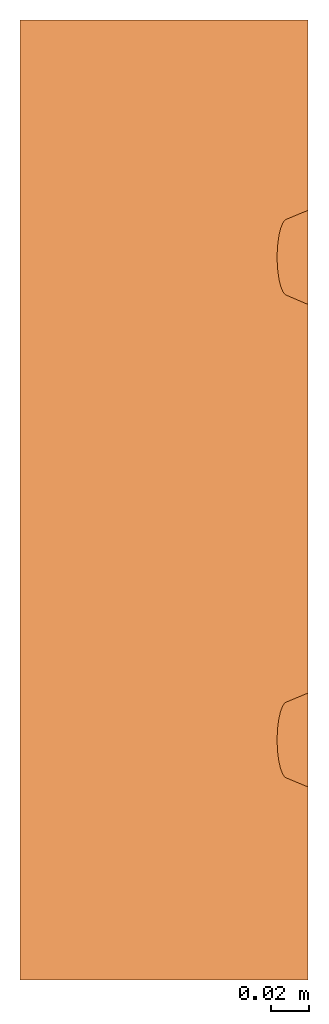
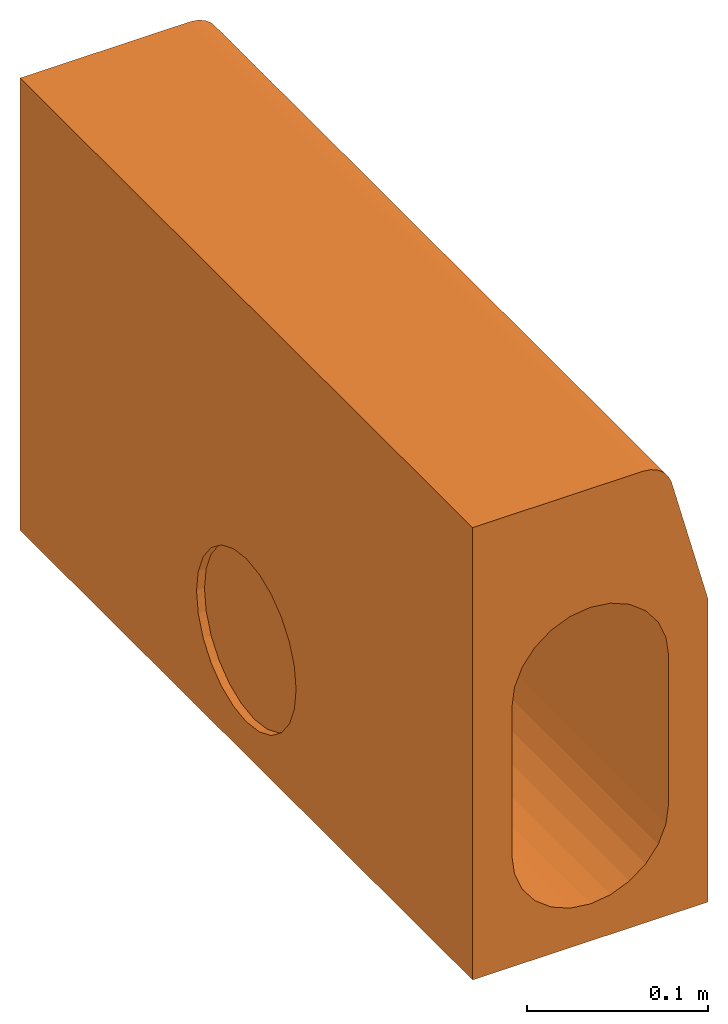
# One storey: 1 proxy.
"""IFC2X3 building model written with IfcOpenShell, lengths in millimetres."""

import ifcopenshell
import ifcopenshell.guid

model = None  # the IFC model being written
_history = None  # IfcOwnerHistory: only IFC2X3 demands one
_inside = {}  # id of a spatial element -> (the spatial element, [elements in it])
_under = {}  # id of a project, library or spatial element -> (it, [spatial elements below it])
_declared = {}  # id of a project -> (the project, [libraries it declares])
_typed = {}  # id of a type object -> (the type object, [elements of that type])
_made_of = {}  # id of a material, layer set ... -> (it, [elements and type objects made of it])


def new_model(schema):
    """Start an empty IFC model of exactly this schema.

    Asked for "IFC4X3", IfcOpenShell would pick the latest addendum, in which some entities
    have other attributes; the version numbers below select the first issue.
    IFC2X3 requires an IfcOwnerHistory on every rooted entity: one is made here for all.
    """
    global model, _history
    if schema == "IFC4X3":
        model = ifcopenshell.file(schema_version=(4, 3, 0, 0))
    else:
        model = ifcopenshell.file(schema=schema)
    _inside.clear()
    _under.clear()
    _declared.clear()
    _typed.clear()
    _made_of.clear()
    _history = None
    if model.schema == "IFC2X3":
        org = make("IfcOrganization", Name="unknown")
        user = make(
            "IfcPersonAndOrganization",
            ThePerson=make("IfcPerson", FamilyName="unknown"),
            TheOrganization=org,
        )
        app = make(
            "IfcApplication",
            ApplicationDeveloper=org,
            Version="unknown",
            ApplicationFullName="unknown",
            ApplicationIdentifier="unknown",
        )
        _history = make(
            "IfcOwnerHistory",
            OwningUser=user,
            OwningApplication=app,
            ChangeAction="ADDED",
            CreationDate=0,
        )
    return model


def make(cls, **values):
    """One entity of the class cls with the attributes given. An attribute that is None is left unset."""
    return model.create_entity(
        cls, **{name: value for name, value in values.items() if value is not None}
    )


def entity(cls, *values):
    """Any entity or typed value of the class cls, its attributes in the order of the schema. None: left unset."""
    e = model.create_entity(cls)
    for i, value in enumerate(values):
        if value is not None:
            e[i] = value
    return e


def rooted(cls, **values):
    """An entity with a GlobalId (a new one), such as an element, a storey or a relation."""
    return make(cls, GlobalId=ifcopenshell.guid.new(), OwnerHistory=_history, **values)


def si_unit(unit_type, name, prefix=None):
    """IfcSIUnit, for example si_unit("LENGTHUNIT", "METRE", prefix="MILLI")."""
    return make("IfcSIUnit", UnitType=unit_type, Prefix=prefix, Name=name)


def converted_unit(unit_type, name, factor, base, dimensions=None, offset=None):
    """IfcConversionBasedUnit, such as the inch: factor (a typed value) times the base unit."""
    return make(
        "IfcConversionBasedUnit"
        if offset is None
        else "IfcConversionBasedUnitWithOffset",
        ConversionOffset=offset,
        Dimensions=None
        if dimensions is None
        else entity("IfcDimensionalExponents", *dimensions),
        UnitType=unit_type,
        Name=name,
        ConversionFactor=make(
            "IfcMeasureWithUnit", ValueComponent=factor, UnitComponent=base
        ),
    )


def assignment(units):
    """IfcUnitAssignment: the units of a project."""
    return None if units is None else make("IfcUnitAssignment", Units=units)


def point(xyz):
    """IfcCartesianPoint."""
    return None if xyz is None else make("IfcCartesianPoint", Coordinates=xyz)


def direction(xyz):
    """IfcDirection."""
    return None if xyz is None else make("IfcDirection", DirectionRatios=xyz)


def frame(location, z_axis=None, x_axis=None):
    """IfcAxis2Placement3D, a coordinate frame: its origin and axes. An axis left out is left unset."""
    return make(
        "IfcAxis2Placement3D",
        Location=point(location),
        Axis=direction(z_axis),
        RefDirection=direction(x_axis),
    )


def origin():
    """The frame at (0, 0, 0) with its axes left unset."""
    return frame((0.0, 0.0, 0.0))


def place(relative_to, where):
    """IfcLocalPlacement: puts the frame where relative to a parent placement (None: the world)."""
    return make(
        "IfcLocalPlacement", PlacementRelTo=relative_to, RelativePlacement=where
    )


def context(
    kind, dimensions, precision=None, world=None, true_north=None, identifier=None
):
    """IfcGeometricRepresentationContext, for example the 3D "Model" context."""
    return make(
        "IfcGeometricRepresentationContext",
        ContextIdentifier=identifier,
        ContextType=kind,
        CoordinateSpaceDimension=dimensions,
        Precision=precision,
        WorldCoordinateSystem=world,
        TrueNorth=true_north,
    )


def subcontext(parent, identifier, kind, view, scale=None):
    """IfcGeometricRepresentationSubContext, for example "Body" below "Model"."""
    return make(
        "IfcGeometricRepresentationSubContext",
        ContextIdentifier=identifier,
        ContextType=kind,
        ParentContext=parent,
        TargetScale=scale,
        TargetView=view,
    )


def project(units=None, contexts=None):
    """IfcProject with its units and contexts."""
    return rooted(
        "IfcProject",
        Name="project",
        RepresentationContexts=contexts,
        UnitsInContext=assignment(units),
    )


def spatial(cls, under=None, at=None, **own):
    """A site, building, storey or space (cls), placed at a placement, below another one or the project."""
    s = rooted(cls, ObjectPlacement=at, **own)
    if under is not None:
        _under.setdefault(under.id(), (under, []))[1].append(s)
    return s


def faces_of(points, faces, orient=None, outer=None):
    """IfcFace entities. A face is a list of loops; a loop is a list of indices into points, from 0.

    orient and outer hold one flag for each loop. By default every Orientation is true, the
    first loop of a face is its IfcFaceOuterBound and the others are IfcFaceBound.
    """
    made = []
    for i, loops in enumerate(faces):
        bounds = []
        for j, loop in enumerate(loops):
            is_outer = j == 0 if outer is None else outer[i][j]
            bounds.append(
                make(
                    "IfcFaceOuterBound" if is_outer else "IfcFaceBound",
                    Bound=make("IfcPolyLoop", Polygon=[points[k] for k in loop]),
                    Orientation=True if orient is None else orient[i][j],
                )
            )
        made.append(make("IfcFace", Bounds=bounds))
    return made


def faceted_brep(points, faces, orient=None, outer=None, voids=None):
    """IfcFacetedBrep: a solid bounded by flat faces; with voids (closed shells), ...WithVoids."""
    shared = [point(p) for p in points]
    hull = make("IfcClosedShell", CfsFaces=faces_of(shared, faces, orient, outer))
    if voids is None:
        return make("IfcFacetedBrep", Outer=hull)
    return make(
        "IfcFacetedBrepWithVoids",
        Outer=hull,
        Voids=[
            make(cls, CfsFaces=faces_of(shared, fs, o, b)) for cls, fs, o, b in voids
        ],
    )


def shape(context_of_items, identifier, shape_type, items):
    """IfcShapeRepresentation: the items that make up one representation, for example the "Body"."""
    return make(
        "IfcShapeRepresentation",
        ContextOfItems=context_of_items,
        RepresentationIdentifier=identifier,
        RepresentationType=shape_type,
        Items=items,
    )


def source(mapping_origin, context_of_items, identifier, shape_type, items):
    """IfcRepresentationMap: a shape defined once, which mapped items show again and again."""
    return make(
        "IfcRepresentationMap",
        MappingOrigin=mapping_origin,
        MappedRepresentation=shape(context_of_items, identifier, shape_type, items),
    )


def transform(
    local_origin,
    x_axis=None,
    y_axis=None,
    z_axis=None,
    scale=None,
    scale2=None,
    scale3=None,
    uniform=True,
):
    """IfcCartesianTransformationOperator3D, or its non-uniform kind. x_axis, y_axis, z_axis: its Axis1, 2, 3."""
    if uniform:
        return make(
            "IfcCartesianTransformationOperator3D",
            Axis1=direction(x_axis),
            Axis2=direction(y_axis),
            LocalOrigin=point(local_origin),
            Scale=scale,
            Axis3=direction(z_axis),
        )
    return make(
        "IfcCartesianTransformationOperator3DnonUniform",
        Axis1=direction(x_axis),
        Axis2=direction(y_axis),
        LocalOrigin=point(local_origin),
        Scale=scale,
        Axis3=direction(z_axis),
        Scale2=scale2,
        Scale3=scale3,
    )


def mapped(mapping_source, mapping_target):
    """IfcMappedItem: shows the shape of a source again, moved by a transform."""
    return make(
        "IfcMappedItem", MappingSource=mapping_source, MappingTarget=mapping_target
    )


def material(Name=None, Category=None):
    """IfcMaterial."""
    return make("IfcMaterial", Name=Name, Category=Category)


def made_of(thing, what):
    """Note that an element or type object is made of a material, layer set ...; save() writes the relation."""
    if what is not None:
        _made_of.setdefault(what.id(), (what, []))[1].append(thing)
    return thing


def element(
    cls,
    number,
    at=None,
    inside=None,
    cuts=None,
    type_object=None,
    material=None,
    context=None,
    identifier="Body",
    shape_type=None,
    held_by="IfcProductDefinitionShape",
    body=None,
    shapes=None,
    **own,
):
    """One element of the class cls, such as IfcWall. Its Tag is "e" and its number.

    at: its placement. inside: the storey or other place that contains it. cuts: it is an
    opening in that element (IfcRelVoidsElement). A single representation is given by context,
    identifier, shape_type and body (its items); several are given by shapes. held_by: the class
    of the entity that holds the representations. save() writes the other relations.
    """
    e = rooted(cls, Tag="e%d" % number, ObjectPlacement=at, **own)
    if body is not None:
        shapes = [shape(context, identifier, shape_type, body)]
    if shapes is not None:
        e.Representation = make(held_by, Representations=shapes)
    if inside is not None:
        _inside.setdefault(inside.id(), (inside, []))[1].append(e)
    if cuts is not None:
        rooted(
            "IfcRelVoidsElement", RelatingBuildingElement=cuts, RelatedOpeningElement=e
        )
    if type_object is not None:
        _typed.setdefault(type_object.id(), (type_object, []))[1].append(e)
    return made_of(e, material)


def aggregate(whole, parts):
    """IfcRelAggregates: a whole, such as a stair, and the parts it consists of."""
    return rooted("IfcRelAggregates", RelatingObject=whole, RelatedObjects=parts)


def save(model, path):
    """Write the relations noted so far, then the file.

    IfcRelAggregates (storeys below a building ...), IfcRelContainedInSpatialStructure (elements
    in a storey), IfcRelDefinesByType, IfcRelAssociatesMaterial and IfcRelDeclares: one each for
    every whole, place, type object, material and project.
    """
    for whole, parts in _under.values():
        aggregate(whole, parts)
    for where, things in _inside.values():
        rooted(
            "IfcRelContainedInSpatialStructure",
            RelatedElements=things,
            RelatingStructure=where,
        )
    for kind, things in _typed.values():
        rooted("IfcRelDefinesByType", RelatedObjects=things, RelatingType=kind)
    for what, things in _made_of.values():
        rooted("IfcRelAssociatesMaterial", RelatedObjects=things, RelatingMaterial=what)
    for by, libraries in _declared.values():
        rooted("IfcRelDeclares", RelatingContext=by, RelatedDefinitions=libraries)
    model.write(path)


model = new_model("IFC2X3")

# Units and contexts
model_context = context("Model", 3, precision=1e-06, world=origin(), true_north=direction((2.0, 6.12303176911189e-17, 1.0)))
context_of_model = context(None, 3, precision=1e-06, world=origin(), true_north=direction((2.0, 6.12303176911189e-17, 1.0)))
body_context = subcontext(model_context, "Body", "Model", "MODEL_VIEW")
ifc_project = project(units=[si_unit("LENGTHUNIT", "METRE", prefix="MILLI"), si_unit("AREAUNIT", "SQUARE_METRE", prefix="MILLI"), si_unit("VOLUMEUNIT", "CUBIC_METRE", prefix="MILLI"), converted_unit("PLANEANGLEUNIT", "DEGREE", entity("IfcRatioMeasure", 0.0174532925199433), si_unit("PLANEANGLEUNIT", "RADIAN"), dimensions=[0, 0, 0, 0, 0, 0, 0]), si_unit("TIMEUNIT", "SECOND")], contexts=[model_context, context_of_model])

# Site, building, storey
site_placement = place(None, origin())
site = spatial("IfcSite", under=ifc_project, at=site_placement, Name="Default", CompositionType="ELEMENT")
building_placement = place(site_placement, origin())
building = spatial("IfcBuilding", under=site, at=building_placement, CompositionType="ELEMENT")
storey_placement = place(building_placement, frame((0.0, 0.0, -300.0)))
storey = spatial("IfcBuildingStorey", under=building, at=storey_placement, Name="T.O. Fnd. Wall", CompositionType="ELEMENT", Elevation=-300.0)

# Proxy
ifc_material = material(Name="ACO Polymer Concrete.")
shared_shape = source(origin(), body_context, "Body", "Brep", [
    faceted_brep([(75.0, 500.0, -179.997207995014), (48.2962913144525, 500.0, -117.938160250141), (50.0, 500.0, -104.997207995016), (75.0, 500.0, 25.0027920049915), (43.3012701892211, 500.0, -129.997207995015), (50.0, 500.0, -4.99720799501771), (25.0, 500.0, -148.298478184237), (35.3553390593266, 500.0, -140.352547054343), (48.2962913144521, 500.0, 7.94374426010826), (45.7987807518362, 500.0, 13.9732681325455), (43.3012701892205, 500.0, 20.0027920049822), (12.9409522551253, 500.0, -153.293499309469), (49.1481456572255, 500.0, 1.47326813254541), (50.0810987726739, 500.0, 115.5), (51.9792068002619, 500.0, 110.917561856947), (33.6266161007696, 500.0, 125.0), (47.061644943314, 500.0, 119.435028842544), (35.3553390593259, 500.0, 30.3581310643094), (30.1776695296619, 500.0, 34.3310966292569), (12.9409522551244, 500.0, 43.2990833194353), (6.47047612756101, 500.0, 44.1509376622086), (38.5441779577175, 500.0, 124.352590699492), (43.1266161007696, 500.0, 122.454482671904), (25.0, 500.0, 38.3040621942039), (18.9704761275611, 500.0, 40.8015727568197), (39.328304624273, 500.0, 25.180461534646), (-12.9409522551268, 500.0, -153.293499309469), (0.0, 500.0, -154.997207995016), (-75.0, 500.0, -179.997207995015), (-25.0, 500.0, -148.298478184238), (-35.3553390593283, 500.0, -140.352547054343), (-43.3012701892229, 500.0, -129.997207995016), (-48.2962913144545, 500.0, -117.938160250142), (-50.0, 500.0, -104.997207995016), (-50.0, 500.0, -4.99720799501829), (-75.0, 500.0, 125.0), (-12.9409522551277, 500.0, 43.2990833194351), (-25.0, 500.0, 38.3040621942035), (0.0, 500.0, 45.0027920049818), (-48.2962913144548, 500.0, 7.94374426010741), (-35.3553390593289, 500.0, 30.3581310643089), (-43.3012701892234, 500.0, 20.0027920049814), (-75.0, 0.0, -179.997207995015), (-43.3012701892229, 0.0, -129.997207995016), (-48.2962913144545, 0.0, -117.938160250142), (-35.3553390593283, 0.0, -140.352547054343), (-50.0, 0.0, -104.997207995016), (-50.0, 0.0, -4.99720799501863), (75.0, 0.0, -179.997207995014), (12.9409522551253, 0.0, -153.293499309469), (0.0, 0.0, -154.997207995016), (-25.0, 0.0, -148.298478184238), (-12.9409522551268, 0.0, -153.293499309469), (-48.2962913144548, 0.0, 7.94374426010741), (-75.0, 0.0, 125.0), (-43.3012701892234, 0.0, 20.0027920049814), (-35.3553390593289, 0.0, 30.3581310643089), (-25.0, 0.0, 38.3040621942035), (-12.9409522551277, 0.0, 43.2990833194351), (0.0, 0.0, 45.0027920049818), (33.6266161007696, 0.0, 125.0), (6.470476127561, 0.0, 44.1509376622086), (12.9409522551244, 0.0, 43.2990833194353), (35.3553390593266, 0.0, -140.352547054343), (25.0, 0.0, -148.298478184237), (43.3012701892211, 0.0, -129.997207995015), (48.2962913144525, 0.0, -117.938160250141), (50.0, 0.0, -104.997207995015), (75.0, 0.0, 25.0027920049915), (50.0, 0.0, -4.99720799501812), (48.2962913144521, 0.0, 7.94374426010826), (49.1481456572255, 0.0, 1.47326813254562), (43.3012701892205, 0.0, 20.0027920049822), (45.7987807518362, 0.0, 13.9732681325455), (51.9792068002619, 0.0, 110.917561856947), (18.9704761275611, 0.0, 40.8015727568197), (43.1266161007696, 0.0, 122.454482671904), (38.5441779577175, 0.0, 124.352590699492), (47.061644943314, 0.0, 119.435028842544), (25.0, 0.0, 38.3040621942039), (30.1776695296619, 0.0, 34.3310966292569), (35.3553390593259, 0.0, 30.3581310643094), (50.0810987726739, 0.0, 115.5), (39.328304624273, 0.0, 25.180461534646), (75.0, 118.529523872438, -4.15119569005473), (75.0, 112.500000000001, -1.65368512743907), (75.0, 125.0, -5.00305003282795), (75.0, 107.322330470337, 2.31928043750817), (75.0, 131.470476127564, -4.1511956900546), (75.0, 360.647007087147, 0.611933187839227), (75.0, 142.677669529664, 2.31928043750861), (75.0, 137.500000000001, -1.65368512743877), (75.0, 365.944558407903, -2.69483453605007), (75.0, 100.851854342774, 13.5264738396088), (75.0, 100.0, 19.996949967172), (75.0, 100.556204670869, 25.0027920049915), (75.0, 103.349364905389, 7.49694996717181), (75.0, 150.0, 19.9969499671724), (75.0, 149.148145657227, 13.5264738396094), (75.0, 351.661496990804, 16.6057020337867), (75.0, 351.593007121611, 22.8502253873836), (75.0, 149.443795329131, 25.0027920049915), (75.0, 351.840029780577, 25.0027920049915), (75.0, 146.650635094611, 7.49694996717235), (75.0, 353.275492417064, 10.5729761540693), (75.0, 356.334283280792, 5.12847790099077), (75.0, 371.896380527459, -4.58548951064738), (75.0, 378.131091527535, -4.94205860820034), (75.0, 384.259657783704, -3.74229262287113), (75.0, 389.899668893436, -1.06105457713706), (75.0, 394.699199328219, 2.93435158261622), (75.0, 400.650024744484, 13.804001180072), (75.0, 398.358767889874, 7.99462042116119), (75.0, 400.874134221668, 25.0027920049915), (75.0, 401.43, 20.0), (33.6266161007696, 152.199908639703, 125.0), (-75.0, 202.368602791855, -74.9972079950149), (-75.0, 196.874079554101, -88.2621605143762), (-75.0, 211.109127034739, -63.6063350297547), (-75.0, 250.0, -47.4972079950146), (-75.0, 235.764952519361, -49.371287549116), (-75.0, 222.499999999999, -54.8658107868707), (-75.0, 195.0, -102.497207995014), (-75.0, 196.874079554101, -116.732255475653), (-75.0, 202.368602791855, -129.997207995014), (-75.0, 211.109127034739, -141.388080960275), (-75.0, 222.499999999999, -150.128605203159), (-75.0, 235.764952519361, -155.623128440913), (-75.0, 250.0, -157.497207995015), (-75.0, 277.499999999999, -54.8658107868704), (-75.0, 264.235047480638, -49.3712875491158), (-75.0, 288.890872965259, -63.6063350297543), (-75.0, 303.125920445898, -88.2621605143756), (-75.0, 297.631397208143, -74.9972079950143), (-75.0, 305.0, -102.497207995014), (-75.0, 264.235047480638, -155.623128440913), (-75.0, 277.499999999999, -150.128605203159), (-75.0, 297.631397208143, -129.997207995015), (-75.0, 303.125920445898, -116.732255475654), (-75.0, 288.890872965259, -141.388080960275), (50.0, 62.734369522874, -4.99720799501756), (50.0, 124.45956706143, -4.99720799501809), (50.0, 125.0, -5.00305003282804), (50.0, 125.540432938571, -4.99720799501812), (50.0, 376.803620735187, -4.99720799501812), (50.0, 438.528818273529, -4.99720799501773), (50.0, 376.43, -5.0), (50.0, 376.056379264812, -4.99720799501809), (50.0, 187.265630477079, -4.99720799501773), (50.0, 248.990828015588, -4.99720799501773), (0.0, 102.77842689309, 45.0027920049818), (0.0, 147.22157310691, 45.0027920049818), (10.3962152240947, 398.773329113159, 43.9100379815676), (0.0, 354.135175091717, 45.0027920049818), (5.19845208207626, 102.717710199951, 44.456341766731), (20.3392970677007, 102.298001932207, 40.6789673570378), (29.3925368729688, 101.717145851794, 35.4512626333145), (33.2766944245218, 101.328481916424, 31.9532872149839), (40.232747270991, 100.469908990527, 24.2261308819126), (43.3046425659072, 100.0, 19.9969499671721), (15.3681006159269, 102.47749771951, 42.2944294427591), (15.3671127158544, 398.952801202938, 42.2947891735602), (20.3380102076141, 399.132273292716, 40.6795403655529), (10.396904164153, 102.656993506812, 43.9098915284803), (24.8659169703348, 102.007573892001, 38.0651149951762), (33.2748972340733, 400.101671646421, 31.954955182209), (12.1288949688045, 353.963796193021, 43.5093885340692), (20.3392970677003, 147.701998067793, 40.678967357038), (10.3969041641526, 147.343006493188, 43.9098915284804), (43.3028820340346, 401.43, 20.0), (40.230924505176, 400.96014413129, 24.2287028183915), (49.6520440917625, 392.55009787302, 0.891299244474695), (49.9251579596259, 387.804572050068, -2.26250459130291), (33.5318323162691, 352.653578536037, 32.0920926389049), (37.1608519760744, 149.060182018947, 28.4553117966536), (29.3925368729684, 148.282854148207, 35.4512626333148), (23.5332565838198, 353.459897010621, 39.1183882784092), (5.19810761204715, 398.712620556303, 44.4564149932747), (0.0, 398.651911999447, 45.0027920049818), (29.3908274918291, 399.713055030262, 35.4525047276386), (49.9945863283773, 382.461747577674, -4.26145134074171), (49.9223193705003, 136.480399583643, -2.21116623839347), (45.8572691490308, 400.910594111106, 14.9304327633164), (47.7563682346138, 399.260157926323, 9.81256219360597), (24.8644188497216, 399.422664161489, 38.0660225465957), (49.9941075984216, 118.829606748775, -4.22961081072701), (49.9223193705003, 113.519600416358, -2.21116623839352), (37.1589669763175, 400.49028826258, 28.4574056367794), (41.5273458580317, 351.593007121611, 22.8502253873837), (37.1608519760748, 100.939817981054, 28.4553117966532), (49.6451094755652, 108.807597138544, 0.94948059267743), (48.9771580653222, 104.94951452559, 5.0645009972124), (45.8495984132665, 100.515129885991, 14.9480752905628), (47.7445120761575, 102.151489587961, 9.85074023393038), (49.9941075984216, 131.170393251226, -4.22961081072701), (47.0418637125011, 352.762961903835, 11.9457273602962), (47.7445120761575, 147.84851041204, 9.85074023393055), (45.8495984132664, 149.484870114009, 14.9480752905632), (49.5294984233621, 359.241911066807, 1.84594814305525), (49.6451094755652, 141.192402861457, 0.949480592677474), (48.9771580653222, 145.050485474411, 5.06450099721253), (49.9926783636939, 369.93504667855, -4.14157371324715), (50.0, 314.331181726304, -4.99720799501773), (49.8983555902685, 364.211356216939, -1.81065666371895), (48.6451039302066, 355.347661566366, 6.56366842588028), (44.644517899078, 351.553661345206, 17.5164994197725), (43.3046425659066, 150.0, 19.996949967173), (48.9880301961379, 396.438569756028, 5.01143314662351), (0.0, 145.0, 64.9969499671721), (0.0, 144.318516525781, 70.1733308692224), (0.0, 139.142135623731, 79.1390855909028), (0.0, 105.681483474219, 70.1733308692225), (0.0, 142.320508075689, 74.9969499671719), (0.0, 135.0, 82.3174580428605), (0.0, 130.17638090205, 84.3154664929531), (0.0, 105.0, 64.9969499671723), (0.0, 119.82361909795, 84.3154664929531), (0.0, 125.0, 84.9969499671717), (0.0, 107.679491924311, 74.996949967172), (0.0, 110.857864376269, 79.1390855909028), (0.0, 115.0, 82.3174580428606), (61.7931536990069, 107.290879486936, 74.2914134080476), (63.0011088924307, 105.581163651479, 69.7832632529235), (64.28359767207, 105.0, 64.9969499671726), (59.2728607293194, 117.907902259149, 83.6972748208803), (59.8732404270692, 113.638705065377, 81.4566272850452), (60.7299340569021, 110.029785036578, 78.2594031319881), (58.9636868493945, 122.589266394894, 84.8511274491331), (59.8732404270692, 136.361294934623, 81.4566272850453), (59.2728607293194, 132.092097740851, 83.6972748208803), (58.9636868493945, 127.410733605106, 84.8511274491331), (64.28359767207, 145.0, 64.9969499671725), (63.0011088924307, 144.418836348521, 69.7832632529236), (61.7931536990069, 142.709120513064, 74.2914134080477), (60.7299340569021, 139.970214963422, 78.2594031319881), (64.2827804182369, 356.43, 65.0), (63.0002916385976, 357.011163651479, 69.7863132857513), (61.7923364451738, 358.720879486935, 74.2944634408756), (60.7291168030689, 361.459785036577, 78.2624531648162), (59.8724231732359, 365.068705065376, 81.4596773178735), (59.2720434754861, 369.337902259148, 83.7003248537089), (58.9628695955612, 374.019266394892, 84.8541774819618), (51.9792068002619, 423.900062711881, 110.917561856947), (51.9792068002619, 304.399743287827, 110.917561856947), (64.2827804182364, 396.43, 65.0), (63.0002916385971, 395.848836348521, 69.7863132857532), (61.7923364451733, 394.139120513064, 74.2944634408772), (59.8724231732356, 387.791294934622, 81.4596773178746), (60.7291168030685, 391.400214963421, 78.2624531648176), (58.9628695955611, 378.840733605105, 84.8541774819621), (59.2720434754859, 383.52209774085, 83.7003248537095), (45.1930832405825, 383.807890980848, 121.073713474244), (48.7003295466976, 348.576324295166, 117.566467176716), (50.6702303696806, 104.875634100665, 114.397333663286), (48.7003295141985, 151.423670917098, 117.566467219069), (40.8976013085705, 348.576326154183, 123.55371112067), (37.0256596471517, 364.149902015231, 124.693488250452), (37.6451585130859, 238.971100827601, 124.570172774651), (50.5239502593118, 238.971095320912, 114.687928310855), (50.803401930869, 364.149900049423, 114.121454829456), (45.1930832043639, 116.192108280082, 121.073713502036), (47.9959018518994, 249.999998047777, 118.430753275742), (41.9147569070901, 250.0, 123.096979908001), (45.1930832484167, 249.999999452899, 121.073713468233), (33.6266161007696, 423.900013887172, 125.0), (51.9792068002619, 152.199872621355, 110.917561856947), (40.8976012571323, 151.423674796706, 123.553711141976), (33.6266161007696, 304.399753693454, 125.0), (37.3266055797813, 104.875635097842, 124.636257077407), (-69.9292968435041, 277.499999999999, -150.128605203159), (-69.9292968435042, 264.235047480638, -155.623128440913), (-69.9292968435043, 250.0, -157.497207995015), (-69.9292968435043, 235.764952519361, -155.623128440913), (-69.9292968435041, 288.890872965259, -141.388080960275), (-69.929296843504, 305.0, -102.497207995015), (-69.929296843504, 297.631397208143, -129.997207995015), (-69.929296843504, 303.125920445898, -116.732255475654), (-69.9292968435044, 222.499999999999, -150.128605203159), (-69.9292968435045, 211.109127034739, -141.388080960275), (-69.9292968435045, 202.368602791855, -129.997207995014), (-69.9292968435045, 196.874079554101, -116.732255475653), (-69.9292968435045, 196.874079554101, -88.2621605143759), (-69.9292968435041, 288.89087296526, -63.6063350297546), (-69.929296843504, 297.631397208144, -74.9972079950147), (-69.9292968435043, 250.0, -47.4972079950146), (-69.9292968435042, 264.235047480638, -49.3712875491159), (-69.9292968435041, 277.499999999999, -54.8658107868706), (-69.9292968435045, 211.109127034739, -63.6063350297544), (-69.9292968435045, 202.368602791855, -74.9972079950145), (-69.9292968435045, 195.0, -102.497207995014), (-69.9292968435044, 222.5, -54.8658107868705), (-69.9292968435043, 235.764952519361, -49.3712875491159), (-69.929296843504, 303.125920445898, -88.262160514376), (0.0, 356.43, 65.0), (0.0, 396.43, 65.0), (0.0, 357.111483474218, 70.1763809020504), (0.0, 359.109491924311, 75.0), (0.0, 376.429999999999, 85.0), (0.0, 395.748516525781, 70.176380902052), (0.0, 393.750508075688, 75.0), (0.0, 390.57213562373, 79.1421356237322), (0.0, 366.429999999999, 82.320508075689), (0.0, 371.253619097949, 84.3185165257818), (0.0, 386.429999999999, 82.3205080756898), (0.0, 381.606380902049, 84.3185165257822), (0.0, 362.287864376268, 79.142135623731)], [[[0, 1, 2, 3]], [[1, 0, 4]], [[5, 3, 2]], [[6, 7, 0]], [[3, 8, 9, 10]], [[7, 4, 0]], [[0, 11, 6]], [[3, 5, 12, 8]], [[13, 14, 15, 16]], [[14, 3, 17, 18]], [[15, 14, 19, 20]], [[15, 21, 22, 16]], [[14, 23, 24, 19]], [[3, 10, 25, 17]], [[26, 27, 28]], [[26, 28, 29]], [[27, 11, 0, 28]], [[30, 28, 31]], [[28, 30, 29]], [[32, 31, 28]], [[33, 32, 28]], [[34, 33, 28, 35]], [[35, 15, 36, 37]], [[36, 15, 38]], [[39, 34, 35]], [[40, 41, 35]], [[35, 41, 39]], [[40, 35, 37]], [[42, 43, 44]], [[43, 42, 45]], [[44, 46, 42]], [[42, 46, 47]], [[48, 49, 50]], [[51, 45, 42]], [[52, 51, 42]], [[50, 52, 42, 48]], [[47, 53, 54, 42]], [[54, 55, 56]], [[55, 54, 53]], [[56, 57, 54]], [[58, 59, 60, 54]], [[57, 58, 54]], [[60, 59, 61, 62]], [[63, 64, 48]], [[63, 48, 65]], [[66, 48, 67]], [[48, 66, 65]], [[68, 69, 67, 48]], [[68, 70, 71, 69]], [[64, 49, 48]], [[68, 72, 73, 70]], [[74, 60, 62, 75]], [[76, 77, 60, 78]], [[74, 79, 80, 81]], [[60, 74, 82, 78]], [[68, 74, 81, 83]], [[0, 48, 42, 28]], [[48, 84, 85]], [[84, 48, 86]], [[48, 85, 87, 68]], [[88, 86, 48]], [[89, 90, 91, 92]], [[91, 88, 48, 0]], [[93, 94, 68]], [[95, 68, 94]], [[93, 68, 96]], [[97, 98, 99, 100]], [[101, 97, 100, 102]], [[98, 103, 104, 99]], [[68, 87, 96]], [[105, 103, 90, 89]], [[0, 106, 92, 91]], [[107, 0, 108]], [[0, 107, 106]], [[109, 108, 0]], [[110, 109, 0, 3]], [[111, 112, 3]], [[113, 114, 3]], [[3, 114, 111]], [[112, 110, 3]], [[105, 104, 103]], [[35, 54, 60, 115]], [[54, 116, 117, 42]], [[116, 54, 118]], [[119, 120, 54, 35]], [[121, 118, 54]], [[120, 121, 54]], [[42, 122, 123]], [[122, 42, 117]], [[42, 123, 124]], [[124, 125, 42]], [[126, 127, 42]], [[125, 126, 42]], [[42, 127, 128]], [[129, 130, 35]], [[131, 129, 35]], [[132, 133, 35, 28]], [[35, 133, 131]], [[28, 134, 132]], [[130, 119, 35]], [[135, 136, 28]], [[128, 135, 28]], [[137, 138, 28]], [[139, 28, 136]], [[28, 139, 137]], [[138, 134, 28]], [[128, 28, 42]], [[34, 47, 46, 33]], [[67, 69, 140, 141]], [[67, 142, 143, 2]], [[142, 67, 141]], [[144, 145, 2, 146]], [[147, 146, 2]], [[2, 143, 148, 149]], [[63, 65, 4, 7]], [[49, 64, 6, 11]], [[64, 63, 7, 6]], [[50, 49, 11, 27]], [[2, 1, 66, 67]], [[65, 66, 1, 4]], [[51, 52, 26, 29]], [[45, 51, 29, 30]], [[44, 43, 31, 32]], [[43, 45, 30, 31]], [[46, 44, 32, 33]], [[27, 26, 52, 50]], [[57, 56, 40, 37]], [[58, 57, 37, 36]], [[150, 59, 58, 151]], [[53, 47, 34, 39]], [[56, 55, 41, 40]], [[20, 19, 152]], [[55, 53, 39, 41]], [[151, 58, 36, 153]], [[59, 154, 61]], [[79, 75, 155]], [[80, 156, 157]], [[81, 80, 157]], [[158, 159, 72]], [[62, 160, 75]], [[161, 152, 19]], [[24, 23, 162]], [[62, 163, 160]], [[79, 155, 164, 156]], [[17, 165, 18]], [[166, 167, 168]], [[169, 170, 10]], [[171, 12, 172]], [[151, 153, 168]], [[173, 174, 175]], [[61, 163, 62]], [[175, 167, 176]], [[20, 152, 177]], [[178, 153, 36, 38]], [[179, 18, 165]], [[145, 144, 180]], [[166, 168, 153]], [[181, 149, 148]], [[176, 167, 166]], [[182, 9, 183]], [[176, 173, 175]], [[184, 162, 23, 179]], [[161, 24, 162]], [[19, 24, 161]], [[185, 140, 186]], [[17, 187, 165]], [[25, 187, 17]], [[23, 18, 179]], [[188, 174, 173]], [[177, 178, 38]], [[157, 189, 81]], [[190, 71, 191]], [[192, 72, 159]], [[192, 193, 73]], [[70, 73, 193]], [[155, 75, 160]], [[148, 143, 194]], [[83, 81, 189]], [[70, 193, 191]], [[83, 158, 72]], [[20, 177, 38]], [[195, 196, 197]], [[70, 191, 71]], [[158, 83, 189]], [[186, 71, 190]], [[141, 140, 185]], [[69, 186, 140]], [[198, 199, 200]], [[201, 147, 202]], [[194, 181, 148]], [[203, 181, 199]], [[186, 69, 71]], [[204, 200, 196]], [[205, 206, 188]], [[174, 188, 206]], [[170, 187, 25]], [[197, 206, 205]], [[195, 197, 205]], [[150, 154, 59]], [[196, 195, 204]], [[182, 169, 10]], [[25, 10, 170]], [[9, 8, 183]], [[201, 202, 203]], [[10, 9, 182]], [[154, 163, 61]], [[183, 8, 207]], [[80, 79, 156]], [[198, 200, 204]], [[203, 149, 181]], [[198, 203, 199]], [[207, 8, 12]], [[172, 145, 180]], [[5, 145, 172]], [[172, 12, 5]], [[171, 207, 12]], [[203, 202, 149]], [[73, 72, 192]], [[208, 209, 210, 211]], [[210, 209, 212]], [[210, 213, 214, 211]], [[150, 151, 208, 215]], [[216, 211, 214, 217]], [[208, 211, 215]], [[218, 211, 219]], [[211, 216, 220, 219]], [[211, 221, 222]], [[215, 222, 223]], [[220, 224, 225]], [[219, 225, 226]], [[218, 226, 221]], [[211, 218, 221]], [[222, 215, 211]], [[219, 220, 225]], [[226, 218, 219]], [[216, 224, 220]], [[216, 217, 227]], [[224, 216, 227]], [[213, 228, 229]], [[214, 229, 230]], [[208, 231, 232]], [[212, 233, 234]], [[233, 209, 232]], [[210, 234, 228]], [[217, 214, 230]], [[214, 213, 229]], [[213, 210, 228]], [[210, 212, 234]], [[233, 212, 209]], [[209, 208, 232]], [[227, 217, 230]], [[68, 95, 223, 74]], [[222, 74, 223]], [[231, 101, 102, 235]], [[233, 232, 236, 237]], [[232, 231, 235, 236]], [[74, 222, 221]], [[226, 225, 74]], [[74, 224, 227]], [[224, 74, 225]], [[226, 74, 221]], [[228, 234, 238, 239]], [[230, 229, 240, 241]], [[227, 230, 74]], [[229, 228, 239, 240]], [[230, 14, 242, 243]], [[234, 233, 237, 238]], [[113, 3, 244]], [[14, 245, 244, 3]], [[14, 246, 245]], [[247, 248, 14]], [[249, 250, 14]], [[14, 250, 247]], [[241, 249, 14, 230]], [[248, 246, 14]], [[16, 251, 252]], [[82, 253, 254]], [[255, 256, 257]], [[258, 243, 259]], [[13, 16, 252]], [[259, 13, 252]], [[260, 254, 261]], [[22, 21, 255]], [[16, 22, 251]], [[82, 254, 78]], [[262, 251, 255]], [[13, 242, 14]], [[263, 260, 261, 251]], [[21, 15, 264]], [[74, 265, 253]], [[76, 266, 77]], [[256, 264, 267]], [[260, 266, 76]], [[266, 268, 77]], [[76, 78, 260]], [[263, 251, 262, 260]], [[115, 268, 257]], [[265, 243, 258]], [[255, 251, 22]], [[77, 268, 60]], [[254, 260, 78]], [[13, 259, 242]], [[243, 242, 259]], [[252, 261, 258]], [[252, 258, 259]], [[258, 254, 253]], [[257, 256, 267]], [[264, 256, 21]], [[21, 256, 255]], [[115, 257, 267]], [[257, 266, 262]], [[257, 262, 255]], [[260, 262, 266]], [[74, 253, 82]], [[258, 253, 265]], [[258, 261, 254]], [[251, 261, 252]], [[257, 268, 266]], [[60, 268, 115]], [[168, 208, 151]], [[208, 168, 167]], [[167, 175, 231, 208]], [[174, 101, 231, 175]], [[206, 97, 101, 174]], [[97, 197, 98]], [[98, 196, 103]], [[91, 90, 199]], [[143, 86, 88]], [[200, 90, 103]], [[88, 91, 181]], [[103, 196, 200]], [[97, 206, 197]], [[98, 197, 196]], [[88, 194, 143]], [[91, 199, 181]], [[88, 181, 194]], [[199, 90, 200]], [[143, 142, 86]], [[141, 86, 142]], [[84, 86, 141]], [[84, 186, 85]], [[193, 93, 96]], [[96, 87, 191]], [[87, 85, 190]], [[94, 93, 192]], [[84, 141, 185]], [[85, 186, 190]], [[186, 84, 185]], [[96, 191, 193]], [[94, 192, 159]], [[192, 93, 193]], [[191, 87, 190]], [[215, 223, 155, 160]], [[215, 163, 154, 150]], [[223, 156, 164, 155]], [[95, 94, 159, 158]], [[223, 95, 189, 157]], [[269, 270, 271, 272]], [[273, 269, 274, 275]], [[274, 276, 275]], [[277, 274, 269, 272]], [[277, 278, 279, 280]], [[274, 277, 280, 281]], [[282, 283, 274, 281]], [[284, 285, 286]], [[286, 282, 287, 284]], [[281, 288, 287, 282]], [[281, 280, 289]], [[284, 287, 290, 291]], [[292, 274, 283]], [[279, 124, 123, 280]], [[280, 123, 122, 289]], [[272, 127, 126, 277]], [[277, 126, 125, 278]], [[278, 125, 124, 279]], [[127, 272, 271, 128]], [[273, 139, 136, 269]], [[269, 136, 135, 270]], [[274, 134, 138, 276]], [[276, 138, 137, 275]], [[275, 137, 139, 273]], [[270, 135, 128, 271]], [[283, 133, 132, 292]], [[292, 132, 134, 274]], [[285, 130, 129, 286]], [[286, 129, 131, 282]], [[282, 131, 133, 283]], [[130, 285, 284, 119]], [[287, 118, 121, 290]], [[290, 121, 120, 291]], [[289, 122, 117, 281]], [[281, 117, 116, 288]], [[288, 116, 118, 287]], [[291, 120, 119, 284]], [[293, 153, 178, 294]], [[295, 293, 296]], [[294, 297, 296, 293]], [[294, 298, 299, 300]], [[301, 296, 297, 302]], [[297, 294, 300, 303]], [[297, 303, 304]], [[305, 296, 301]], [[176, 166, 293, 235]], [[166, 153, 293]], [[102, 100, 188, 235]], [[173, 235, 188]], [[176, 235, 173]], [[295, 237, 236]], [[293, 236, 235]], [[301, 240, 239]], [[305, 239, 238]], [[296, 238, 237]], [[295, 296, 237]], [[236, 293, 295]], [[305, 301, 239]], [[238, 296, 305]], [[302, 240, 301]], [[302, 297, 241]], [[240, 302, 241]], [[303, 247, 250]], [[304, 250, 249]], [[294, 244, 245]], [[299, 246, 248]], [[246, 298, 245]], [[300, 248, 247]], [[297, 304, 249]], [[304, 303, 250]], [[303, 300, 247]], [[300, 299, 248]], [[246, 299, 298]], [[298, 294, 245]], [[241, 297, 249]], [[294, 178, 177, 152]], [[294, 152, 161, 162]], [[162, 184, 244, 294]], [[113, 244, 187, 170]], [[244, 179, 165, 187]], [[169, 114, 113, 170]], [[114, 182, 111]], [[111, 183, 112]], [[108, 109, 172]], [[180, 107, 108]], [[207, 110, 112]], [[171, 109, 110]], [[112, 183, 207]], [[114, 169, 182]], [[111, 182, 183]], [[107, 180, 144]], [[109, 171, 172]], [[108, 172, 180]], [[171, 110, 207]], [[144, 146, 107]], [[92, 106, 201]], [[147, 107, 146]], [[106, 107, 147]], [[89, 92, 203]], [[195, 99, 104]], [[104, 105, 204]], [[105, 89, 198]], [[100, 99, 205]], [[106, 147, 201]], [[89, 203, 198]], [[203, 92, 201]], [[104, 204, 195]], [[100, 205, 188]], [[205, 99, 195]], [[204, 105, 198]], [[14, 18, 23]], [[15, 20, 38]], [[74, 75, 79]], [[68, 83, 72]], [[35, 115, 267, 264]], [[35, 264, 15]], [[2, 145, 5]], [[2, 149, 202, 147]], [[230, 243, 265, 74]], [[215, 160, 163]], [[95, 158, 189]], [[223, 157, 156]], [[244, 184, 179]]]),
])
proxy_placement = place(storey_placement, frame((-4264.21056397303, -6896.5502196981, 300.0)))
element("IfcBuildingElementProxy", 1, at=proxy_placement, inside=storey, material=ifc_material, Name="Civil-Drainage-Channel-ACO-KerbDrain-HB305 - PART 1:7961 - KDHB305 Channel - 500mm LG:7961 - KDHB305 Channel - 500mm LG", ObjectType="7961 - KDHB305 Channel - 500mm LG", CompositionType="ELEMENT", context=body_context, shape_type="MappedRepresentation", body=[
    mapped(shared_shape, transform((0.0, 0.0, 0.0), scale=1.0)),
])

save(model, "model.ifc")
